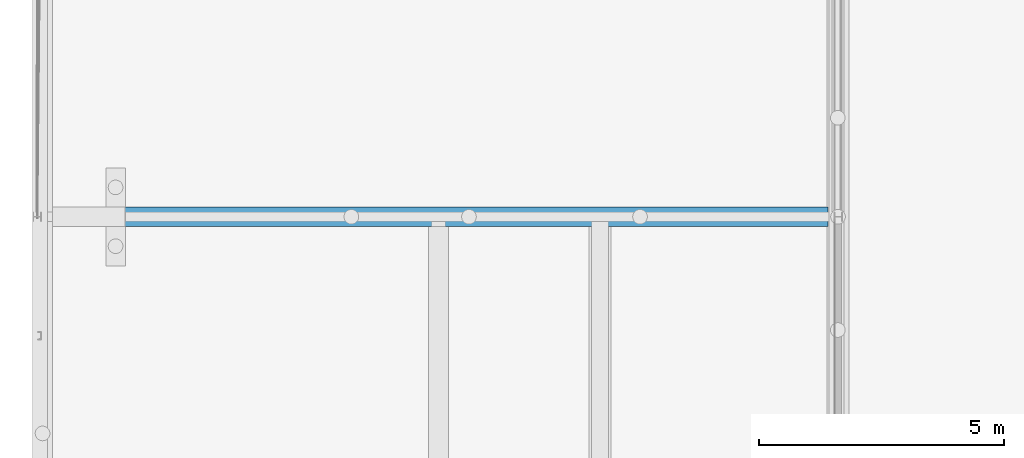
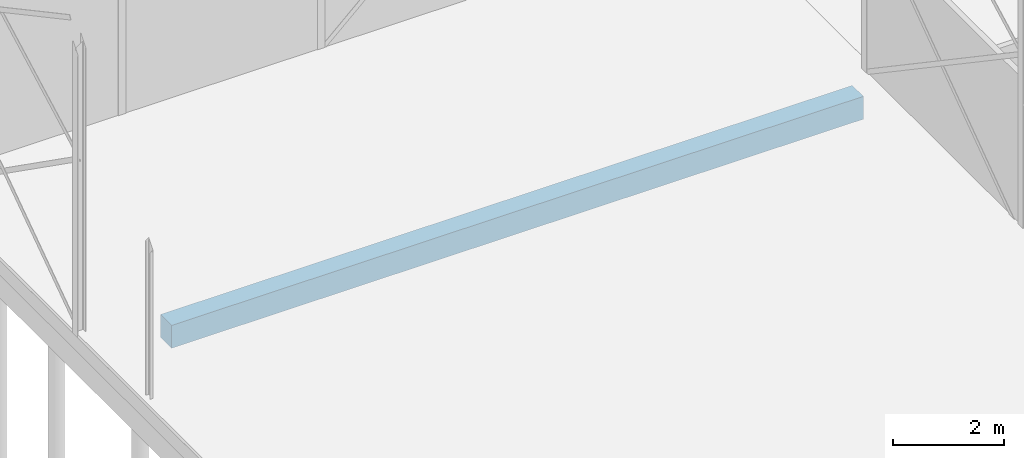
# One storey, part 16 of 17: 1 footing.
"""IFC2X3 building model written with IfcOpenShell, lengths in millimetres."""

from ifc_helpers import new_model, entity, si_unit, converted_unit, derived_unit, direction, frame, origin, place, context, subcontext, project, spatial, faceted_brep, source, transform, mapped, material, type_object, type_shapes, element, save


model = new_model("IFC2X3")

# Units and contexts
model_context = context("Model", 3, precision=0.01, world=origin(), true_north=direction((6.123031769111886e-17, 1.0)))
plan_context = context("Plan", 3, precision=0.01, world=origin(), true_north=direction((6.123031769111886e-17, 1.0)))
body_context = subcontext(model_context, "Body", "Model", "MODEL_VIEW")
ifc_project = project(units=[si_unit("LENGTHUNIT", "METRE", prefix="MILLI"), si_unit("AREAUNIT", "SQUARE_METRE"), si_unit("VOLUMEUNIT", "CUBIC_METRE"), converted_unit("PLANEANGLEUNIT", "DEGREE", entity("IfcPlaneAngleMeasure", 0.017453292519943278), si_unit("PLANEANGLEUNIT", "RADIAN"), dimensions=[0, 0, 0, 0, 0, 0, 0]), si_unit("MASSUNIT", "GRAM", prefix="KILO"), derived_unit("MASSDENSITYUNIT", [(si_unit("MASSUNIT", "GRAM", prefix="KILO"), 1), (si_unit("LENGTHUNIT", "METRE"), -3)]), derived_unit("IONCONCENTRATIONUNIT", [(si_unit("MASSUNIT", "GRAM", prefix="KILO"), 1), (si_unit("LENGTHUNIT", "METRE"), -3)]), derived_unit("MOMENTOFINERTIAUNIT", [(si_unit("LENGTHUNIT", "METRE"), 4)]), si_unit("TIMEUNIT", "SECOND"), si_unit("FREQUENCYUNIT", "HERTZ"), si_unit("THERMODYNAMICTEMPERATUREUNIT", "DEGREE_CELSIUS"), derived_unit("THERMALTRANSMITTANCEUNIT", [(si_unit("MASSUNIT", "GRAM", prefix="KILO"), 1), (si_unit("THERMODYNAMICTEMPERATUREUNIT", "KELVIN"), -1), (si_unit("TIMEUNIT", "SECOND"), -3)]), derived_unit("THERMALCONDUCTANCEUNIT", [(si_unit("MASSUNIT", "GRAM", prefix="KILO"), 1), (si_unit("THERMODYNAMICTEMPERATUREUNIT", "KELVIN"), -1), (si_unit("TIMEUNIT", "SECOND"), -3), (si_unit("LENGTHUNIT", "METRE"), 1)]), derived_unit("VOLUMETRICFLOWRATEUNIT", [(si_unit("LENGTHUNIT", "METRE", prefix="DECI"), 3), (si_unit("TIMEUNIT", "SECOND"), -1)]), derived_unit("MASSFLOWRATEUNIT", [(si_unit("MASSUNIT", "GRAM", prefix="KILO"), 1), (si_unit("TIMEUNIT", "SECOND"), -1)]), derived_unit("ROTATIONALFREQUENCYUNIT", [(si_unit("TIMEUNIT", "SECOND"), -1)]), si_unit("ELECTRICCURRENTUNIT", "AMPERE"), si_unit("ELECTRICVOLTAGEUNIT", "VOLT"), si_unit("POWERUNIT", "WATT"), si_unit("FORCEUNIT", "NEWTON", prefix="KILO"), si_unit("ILLUMINANCEUNIT", "LUX"), si_unit("LUMINOUSFLUXUNIT", "LUMEN"), si_unit("LUMINOUSINTENSITYUNIT", "CANDELA"), si_unit("ENERGYUNIT", "JOULE"), derived_unit("USERDEFINED", [(si_unit("MASSUNIT", "GRAM", prefix="KILO"), -1), (si_unit("LENGTHUNIT", "METRE"), -2), (si_unit("TIMEUNIT", "SECOND"), 3), (si_unit("LUMINOUSFLUXUNIT", "LUMEN"), 1)]), derived_unit("USERDEFINED", [(si_unit("MASSUNIT", "GRAM", prefix="KILO"), 1), (si_unit("TIMEUNIT", "SECOND"), -3), (si_unit("LENGTHUNIT", "METRE"), 3), (si_unit("ELECTRICCURRENTUNIT", "AMPERE"), -2)]), derived_unit("SOUNDPOWERUNIT", [(si_unit("MASSUNIT", "GRAM", prefix="KILO"), 1), (si_unit("TIMEUNIT", "SECOND"), -3), (si_unit("LENGTHUNIT", "METRE"), 2)]), derived_unit("SOUNDPRESSUREUNIT", [(si_unit("MASSUNIT", "GRAM", prefix="KILO"), 1), (si_unit("LENGTHUNIT", "METRE"), -1), (si_unit("TIMEUNIT", "SECOND"), -2)]), derived_unit("LINEARVELOCITYUNIT", [(si_unit("LENGTHUNIT", "METRE"), 1), (si_unit("TIMEUNIT", "SECOND"), -1)]), si_unit("PRESSUREUNIT", "PASCAL"), derived_unit("USERDEFINED", [(si_unit("MASSUNIT", "GRAM", prefix="KILO"), 1), (si_unit("LENGTHUNIT", "METRE"), -2), (si_unit("TIMEUNIT", "SECOND"), -2)]), derived_unit("LINEARFORCEUNIT", [(si_unit("MASSUNIT", "GRAM", prefix="KILO"), 1), (si_unit("TIMEUNIT", "SECOND"), -2)]), derived_unit("PLANARFORCEUNIT", [(si_unit("MASSUNIT", "GRAM", prefix="KILO"), 1), (si_unit("LENGTHUNIT", "METRE"), -1), (si_unit("TIMEUNIT", "SECOND"), -2)]), derived_unit("SPECIFICHEATCAPACITYUNIT", [(si_unit("THERMODYNAMICTEMPERATUREUNIT", "KELVIN"), -1), (si_unit("LENGTHUNIT", "METRE"), 2), (si_unit("TIMEUNIT", "SECOND"), -2)]), derived_unit("HEATFLUXDENSITYUNIT", [(si_unit("MASSUNIT", "GRAM", prefix="KILO"), 1), (si_unit("TIMEUNIT", "SECOND"), -3)]), derived_unit("HEATINGVALUEUNIT", [(si_unit("LENGTHUNIT", "METRE"), 2), (si_unit("TIMEUNIT", "SECOND"), -2)]), derived_unit("VAPORPERMEABILITYUNIT", [(si_unit("LENGTHUNIT", "METRE"), -1), (si_unit("TIMEUNIT", "SECOND"), 1)]), derived_unit("DYNAMICVISCOSITYUNIT", [(si_unit("MASSUNIT", "GRAM", prefix="KILO"), 1), (si_unit("TIMEUNIT", "SECOND"), -1), (si_unit("LENGTHUNIT", "METRE"), -1)]), derived_unit("THERMALEXPANSIONCOEFFICIENTUNIT", [(si_unit("THERMODYNAMICTEMPERATUREUNIT", "KELVIN"), -1)]), derived_unit("MODULUSOFELASTICITYUNIT", [(si_unit("MASSUNIT", "GRAM", prefix="KILO"), 1), (si_unit("LENGTHUNIT", "METRE"), -1), (si_unit("TIMEUNIT", "SECOND"), -2)]), derived_unit("ISOTHERMALMOISTURECAPACITYUNIT", [(si_unit("MASSUNIT", "GRAM", prefix="KILO"), -1), (si_unit("LENGTHUNIT", "METRE"), 3)]), derived_unit("MOISTUREDIFFUSIVITYUNIT", [(si_unit("TIMEUNIT", "SECOND"), -1), (si_unit("LENGTHUNIT", "METRE"), 2)]), derived_unit("MASSPERLENGTHUNIT", [(si_unit("MASSUNIT", "GRAM", prefix="KILO"), 1), (si_unit("LENGTHUNIT", "METRE"), -1)]), derived_unit("THERMALRESISTANCEUNIT", [(si_unit("MASSUNIT", "GRAM", prefix="KILO"), -1), (si_unit("TIMEUNIT", "SECOND"), 3), (si_unit("THERMODYNAMICTEMPERATUREUNIT", "KELVIN"), 1)]), derived_unit("ACCELERATIONUNIT", [(si_unit("LENGTHUNIT", "METRE"), 1), (si_unit("TIMEUNIT", "SECOND"), -2)]), derived_unit("ANGULARVELOCITYUNIT", [(si_unit("TIMEUNIT", "SECOND"), -1), (si_unit("PLANEANGLEUNIT", "RADIAN"), 1)]), derived_unit("LINEARSTIFFNESSUNIT", [(si_unit("MASSUNIT", "GRAM", prefix="KILO"), 1), (si_unit("TIMEUNIT", "SECOND"), -2)]), derived_unit("WARPINGCONSTANTUNIT", [(si_unit("LENGTHUNIT", "METRE"), 6)]), derived_unit("LINEARMOMENTUNIT", [(si_unit("MASSUNIT", "GRAM", prefix="KILO"), 1), (si_unit("LENGTHUNIT", "METRE"), 1), (si_unit("TIMEUNIT", "SECOND"), -2)]), derived_unit("TORQUEUNIT", [(si_unit("MASSUNIT", "GRAM", prefix="KILO"), 1), (si_unit("LENGTHUNIT", "METRE"), 2), (si_unit("TIMEUNIT", "SECOND"), -2)])], contexts=[model_context, plan_context])

# Site, building, storey
site_placement = place(None, origin())
site = spatial("IfcSite", under=ifc_project, at=site_placement, Name="Default", CompositionType="ELEMENT")
building_placement = place(site_placement, origin())
building = spatial("IfcBuilding", under=site, at=building_placement, CompositionType="ELEMENT")
storey_placement = place(building_placement, origin())
storey = spatial("IfcBuildingStorey", under=building, at=storey_placement, Name="00 begane grond", CompositionType="ELEMENT", Elevation=0.0)

# Footing
ifc_material = material(Name="ihwg beton")
type_product = type_object("IfcTypeProduct", Name="16_SF_LIB_funderingsbalk_dw:400x500 (ihwg)", material=ifc_material)
shared_shape = source(origin(), body_context, "Body", "Brep", [
    faceted_brep([(0.0, 0.0, -50.0), (0.0, 0.0, 0.0), (0.0, 400.0, 0.0), (0.0, 400.0, -50.0), (0.0, 400.0, -500.0), (0.0, 0.0, -500.0), (14340.0, 400.0, -500.0), (14340.0, 400.0, 0.0), (14340.0, 0.0, 0.0), (14340.0, 0.0, -500.0), (9910.466666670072, 0.0, 0.0), (14315.0, 0.0, 0.0), (14315.0, 400.0, 0.0), (6193.955664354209, 0.0, 0.0), (6593.955664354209, 0.0, 0.0), (9460.466666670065, 0.0, 0.0), (14315.0, 400.0, -500.0), (5.0, 400.0, -500.0), (4508.933982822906, 306.06601717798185, -500.0), (4540.0, 329.90381056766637, -500.0), (4485.096189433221, 275.0, -500.0), (4470.111126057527, 238.82285676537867, -500.0), (4465.0, 200.0, -500.0), (5.0, 0.0, -500.0), (4470.111126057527, 161.17714323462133, -500.0), (4485.096189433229, 125.0, -500.0), (4508.933982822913, 93.93398282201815, -500.0), (4540.0, 70.0961894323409, -500.0), (4576.177143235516, 55.111126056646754, -500.0), (4615.0, 50.0, -500.0), (6193.955664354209, 0.0, -500.0), (4653.822856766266, 55.111126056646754, -500.0), (4690.0, 70.0961894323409, -500.0), (4721.066017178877, 93.93398282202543, -500.0), (4744.903810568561, 125.0, -500.0), (4759.888873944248, 161.17714323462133, -500.0), (4765.0, 200.0, -500.0), (4759.888873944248, 238.82285676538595, -500.0), (4744.903810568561, 275.0, -500.0), (4721.0660171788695, 306.06601717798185, -500.0), (4690.0, 329.90381056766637, -500.0), (6940.0, 329.90381056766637, -500.0), (4653.822856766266, 344.8888739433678, -500.0), (6976.177143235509, 344.8888739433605, -500.0), (4615.0, 350.0, -500.0), (4576.177143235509, 344.8888739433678, -500.0), (7015.0, 350.0, -500.0), (6908.933982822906, 306.06601717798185, -500.0), (6885.096189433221, 275.0, -500.0), (6593.955664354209, 0.0, -500.0), (6870.111126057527, 238.8228567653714, -500.0), (6865.0, 200.0, -500.0), (6870.111126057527, 161.17714323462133, -500.0), (6885.096189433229, 125.0, -500.0), (6908.933982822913, 93.93398282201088, -500.0), (6940.0, 70.09618943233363, -500.0), (6976.177143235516, 55.11112605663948, -500.0), (7015.0, 50.0, -500.0), (9460.466666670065, 0.0, -500.0), (7053.822856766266, 55.11112605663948, -500.0), (7090.0, 70.09618943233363, -500.0), (7121.066017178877, 93.93398282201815, -500.0), (7144.903810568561, 125.0, -500.0), (7159.888873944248, 161.17714323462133, -500.0), (7165.0, 200.0, -500.0), (7159.888873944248, 238.82285676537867, -500.0), (7144.903810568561, 275.0, -500.0), (7121.0660171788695, 306.06601717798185, -500.0), (7090.0, 329.90381056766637, -500.0), (10430.0, 329.9038105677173, -500.0), (7053.822856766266, 344.8888739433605, -500.0), (10466.177143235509, 344.88887394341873, -500.0), (10505.0, 350.0, -500.0), (10543.822856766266, 344.88887394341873, -500.0), (10580.0, 329.9038105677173, -500.0), (10611.06601717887, 306.06601717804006, -500.0), (10634.903810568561, 275.0, -500.0), (10649.888873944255, 238.82285676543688, -500.0), (10655.0, 200.0, -500.0), (14315.0, 0.0, -500.0), (10649.888873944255, 161.17714323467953, -500.0), (10634.903810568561, 125.0, -500.0), (10611.066017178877, 93.93398282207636, -500.0), (10580.0, 70.09618943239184, -500.0), (10543.822856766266, 55.111126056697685, -500.0), (10505.0, 50.0, -500.0), (9910.466666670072, 0.0, -500.0), (10398.933982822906, 306.06601717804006, -500.0), (10375.096189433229, 275.0, -500.0), (10360.111126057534, 238.8228567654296, -500.0), (10355.0, 200.0, -500.0), (10360.111126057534, 161.17714323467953, -500.0), (10375.096189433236, 125.0, -500.0), (10398.93398282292, 93.93398282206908, -500.0), (10430.0, 70.09618943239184, -500.0), (10466.177143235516, 55.111126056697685, -500.0), (7090.0, 70.09618943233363, -480.0), (7053.822856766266, 55.11112605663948, -480.0), (7015.0, 50.0, -480.0), (6976.177143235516, 55.11112605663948, -480.0), (6940.0, 70.09618943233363, -480.0), (6908.933982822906, 93.93398282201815, -480.0), (6885.096189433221, 125.0, -480.0), (6870.111126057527, 161.17714323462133, -480.0), (6865.0, 200.0, -480.0), (6870.111126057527, 238.82285676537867, -480.0), (6885.096189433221, 275.0, -480.0), (6908.933982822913, 306.06601717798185, -480.0), (6940.0, 329.90381056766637, -480.0), (6976.177143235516, 344.8888739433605, -480.0), (7015.0, 350.0, -480.0), (7053.822856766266, 344.8888739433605, -480.0), (7090.0, 329.90381056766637, -480.0), (7121.066017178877, 306.06601717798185, -480.0), (7144.903810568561, 275.0, -480.0), (7159.888873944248, 238.82285676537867, -480.0), (7165.0, 200.0, -480.0), (7159.888873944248, 161.17714323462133, -480.0), (7144.903810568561, 125.0, -480.0), (7121.066017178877, 93.93398282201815, -480.0), (10580.0, 70.09618943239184, -480.0), (10543.822856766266, 55.111126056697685, -480.0), (10505.0, 50.0, -480.0), (10466.177143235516, 55.111126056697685, -480.0), (10430.0, 70.09618943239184, -480.0), (10398.933982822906, 93.93398282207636, -480.0), (10375.096189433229, 125.0, -480.0), (10360.111126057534, 161.17714323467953, -480.0), (10355.0, 200.0, -480.0), (10360.111126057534, 238.82285676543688, -480.0), (10375.096189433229, 275.0, -480.0), (10398.93398282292, 306.06601717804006, -480.0), (10430.0, 329.9038105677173, -480.0), (10466.177143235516, 344.88887394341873, -480.0), (10505.0, 350.0, -480.0), (10543.822856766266, 344.88887394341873, -480.0), (10580.0, 329.9038105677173, -480.0), (10611.066017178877, 306.06601717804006, -480.0), (10634.903810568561, 275.0, -480.0), (10649.888873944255, 238.82285676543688, -480.0), (10655.0, 200.0, -480.0), (10649.888873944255, 161.17714323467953, -480.0), (10634.903810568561, 125.0, -480.0), (10611.066017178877, 93.93398282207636, -480.0), (4690.0, 70.0961894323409, -480.0), (4653.822856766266, 55.111126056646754, -480.0), (4615.0, 50.0, -480.0), (4576.177143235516, 55.111126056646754, -480.0), (4540.0, 70.0961894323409, -480.0), (4508.933982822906, 93.93398282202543, -480.0), (4485.096189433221, 125.0, -480.0), (4470.111126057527, 161.17714323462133, -480.0), (4465.0, 200.0, -480.0), (4470.111126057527, 238.82285676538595, -480.0), (4485.096189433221, 275.0, -480.0), (4508.933982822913, 306.06601717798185, -480.0), (4540.0, 329.90381056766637, -480.0), (4576.177143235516, 344.8888739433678, -480.0), (4615.0, 350.0, -480.0), (4653.822856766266, 344.8888739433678, -480.0), (4690.0, 329.90381056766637, -480.0), (4721.066017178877, 306.06601717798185, -480.0), (4744.903810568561, 275.0, -480.0), (4759.888873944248, 238.82285676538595, -480.0), (4765.0, 200.0, -480.0), (4759.888873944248, 161.17714323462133, -480.0), (4744.903810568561, 125.0, -480.0), (4721.066017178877, 93.93398282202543, -480.0)], [[[0, 1, 2, 3, 4, 5]], [[6, 7, 8, 9]], [[10, 11, 8, 7, 12, 2, 1, 13, 14, 15]], [[12, 7, 6, 16, 17, 4, 3, 2]], [[18, 17, 19]], [[20, 17, 18]], [[17, 20, 21]], [[17, 21, 22]], [[22, 23, 17]], [[23, 22, 24]], [[25, 23, 24]], [[23, 25, 26]], [[23, 26, 27]], [[23, 27, 28]], [[29, 23, 28]], [[30, 23, 29]], [[29, 31, 30]], [[31, 32, 30]], [[30, 32, 33]], [[33, 34, 30]], [[35, 30, 34]], [[30, 35, 36]], [[37, 30, 36]], [[30, 37, 38]], [[39, 30, 38]], [[40, 30, 39]], [[30, 40, 41]], [[40, 42, 41]], [[43, 41, 42]], [[42, 44, 43]], [[17, 44, 45]], [[46, 44, 17]], [[46, 43, 44]], [[17, 45, 19]], [[41, 47, 30]], [[48, 30, 47]], [[49, 30, 48]], [[50, 49, 48]], [[51, 49, 50]], [[52, 49, 51]], [[53, 49, 52]], [[49, 53, 54]], [[54, 55, 49]], [[49, 55, 56]], [[57, 49, 56]], [[49, 57, 58]], [[57, 59, 58]], [[59, 60, 58]], [[60, 61, 58]], [[58, 61, 62]], [[58, 62, 63]], [[64, 58, 63]], [[58, 64, 65]], [[66, 58, 65]], [[67, 58, 66]], [[58, 67, 68]], [[58, 68, 69]], [[69, 68, 70]], [[71, 69, 70]], [[71, 70, 46]], [[16, 46, 17]], [[71, 46, 72]], [[72, 46, 16]], [[73, 72, 16]], [[16, 74, 73]], [[16, 75, 74]], [[75, 16, 76]], [[16, 77, 76]], [[16, 78, 77]], [[78, 16, 79]], [[6, 79, 16]], [[9, 79, 6]], [[80, 78, 79]], [[79, 81, 80]], [[79, 82, 81]], [[83, 82, 79]], [[79, 84, 83]], [[85, 84, 79]], [[86, 85, 79]], [[86, 58, 87]], [[87, 88, 86]], [[86, 88, 89]], [[90, 86, 89]], [[90, 91, 86]], [[86, 91, 92]], [[86, 92, 93]], [[93, 94, 86]], [[95, 86, 94]], [[85, 86, 95]], [[58, 69, 87]], [[23, 4, 17]], [[23, 5, 4]], [[23, 30, 49, 58, 86, 79, 9, 8, 11, 10, 15, 14, 13, 1, 0, 5]], [[96, 97, 98, 99, 100, 101, 102, 103, 104, 105, 106, 107, 108, 109, 110, 111, 112, 113, 114, 115, 116, 117, 118, 119]], [[120, 121, 122, 123, 124, 125, 126, 127, 128, 129, 130, 131, 132, 133, 134, 135, 136, 137, 138, 139, 140, 141, 142, 143]], [[144, 145, 146, 147, 148, 149, 150, 151, 152, 153, 154, 155, 156, 157, 158, 159, 160, 161, 162, 163, 164, 165, 166, 167]], [[51, 104, 103, 52]], [[52, 103, 102, 53]], [[55, 54, 101, 100]], [[54, 53, 102, 101]], [[99, 56, 55, 100]], [[56, 99, 98, 57]], [[60, 59, 97, 96]], [[60, 96, 119, 61]], [[63, 62, 118, 117]], [[118, 62, 61, 119]], [[116, 64, 63, 117]], [[57, 98, 97, 59]], [[64, 116, 115, 65]], [[65, 115, 114, 66]], [[68, 67, 113, 112]], [[66, 114, 113, 67]], [[68, 112, 111, 70]], [[70, 111, 110, 46]], [[43, 46, 110, 109]], [[43, 109, 108, 41]], [[48, 47, 107, 106]], [[41, 108, 107, 47]], [[48, 106, 105, 50]], [[51, 50, 105, 104]], [[90, 128, 127, 91]], [[91, 127, 126, 92]], [[94, 93, 125, 124]], [[93, 92, 126, 125]], [[123, 95, 94, 124]], [[95, 123, 122, 85]], [[83, 84, 121, 120]], [[83, 120, 143, 82]], [[80, 81, 142, 141]], [[142, 81, 82, 143]], [[140, 78, 80, 141]], [[85, 122, 121, 84]], [[78, 140, 139, 77]], [[77, 139, 138, 76]], [[74, 75, 137, 136]], [[76, 138, 137, 75]], [[74, 136, 135, 73]], [[73, 135, 134, 72]], [[71, 72, 134, 133]], [[71, 133, 132, 69]], [[88, 87, 131, 130]], [[69, 132, 131, 87]], [[88, 130, 129, 89]], [[90, 89, 129, 128]], [[22, 152, 151, 24]], [[24, 151, 150, 25]], [[27, 26, 149, 148]], [[26, 25, 150, 149]], [[147, 28, 27, 148]], [[28, 147, 146, 29]], [[32, 31, 145, 144]], [[32, 144, 167, 33]], [[35, 34, 166, 165]], [[166, 34, 33, 167]], [[164, 36, 35, 165]], [[29, 146, 145, 31]], [[36, 164, 163, 37]], [[37, 163, 162, 38]], [[40, 39, 161, 160]], [[38, 162, 161, 39]], [[40, 160, 159, 42]], [[42, 159, 158, 44]], [[45, 44, 158, 157]], [[45, 157, 156, 19]], [[20, 18, 155, 154]], [[19, 156, 155, 18]], [[20, 154, 153, 21]], [[22, 21, 153, 152]]]),
])
type_shapes(type_product, [shared_shape])
footing_placement = place(storey_placement, frame((35951.19293735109, 32912.67034020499, -470.0)))
element("IfcFooting", 1, at=footing_placement, inside=storey, type_object=type_product, material=ifc_material, Name="16_SF_LIB_funderingsbalk_dw:400x500 (ihwg)", ObjectType="16_SF_LIB_funderingsbalk_dw:400x500 (ihwg)", context=body_context, shape_type="MappedRepresentation", body=[
    mapped(shared_shape, transform((0.0, 0.0, 0.0), scale=1.0)),
])

save(model, "model.ifc")
